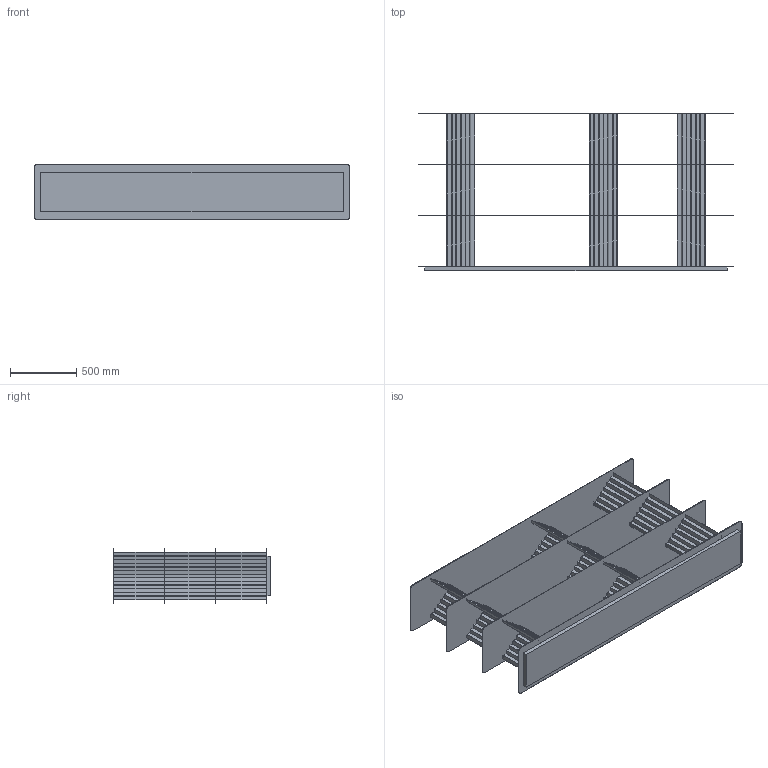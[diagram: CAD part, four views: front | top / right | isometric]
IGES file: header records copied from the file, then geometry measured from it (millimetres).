
Start section: SolidWorks IGES file using analytic representation for surfaces
Global section: file name: Z:\30-Ingenieria I+D\Proyectos\03-Plec_Shelves APO\1-sw\WEB\Arxius\PLEC SHELVES L 3 NIVELES.IGS; native system: SolidWorks 2020; preprocessor: SolidWorks 2020; author: Bernat Llonch; date: 250508.115512; units: millimetre
Bounding box: 2379 x 1187 x 420 mm (x, y, z)
Surface area: 14571997.7 mm2 (no closed solid volume)
Topology: 0 solids, 0 shells, 532 faces, 3248 edges, 3248 vertices
Faces by surface type: bspline 516, revolution 16
